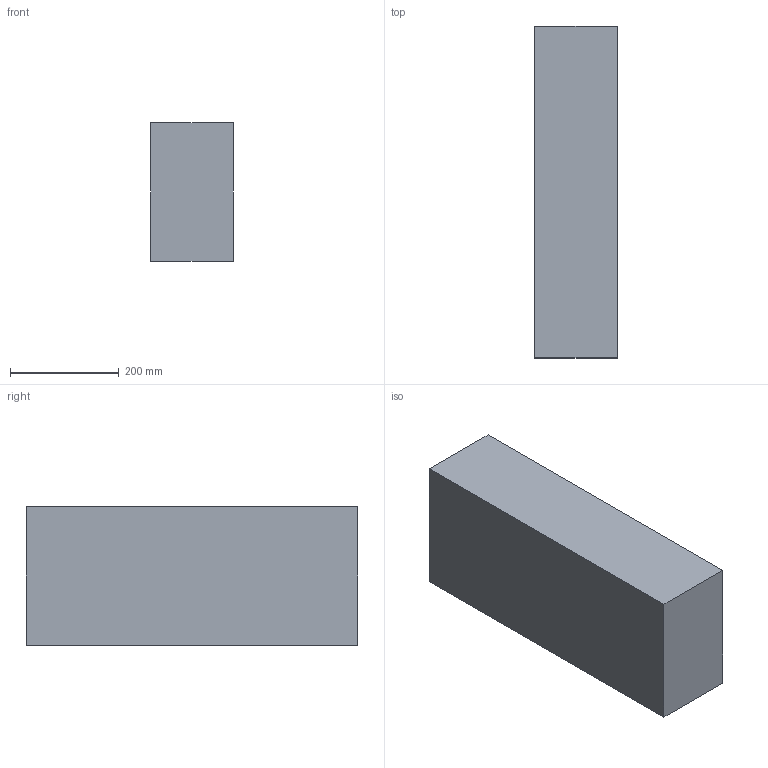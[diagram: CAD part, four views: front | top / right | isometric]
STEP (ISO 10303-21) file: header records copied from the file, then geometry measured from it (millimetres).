
FILE_DESCRIPTION(/* description */ (''),/* implementation_level */ '2;1');
FILE_NAME(/* name */ '6x10x24',/* time_stamp */ '2024-09-20T11:46:55-05:00',/* author */ (''),/* organization */ (''),/* preprocessor_version */ 'ST-DEVELOPER v19.2',/* originating_system */ 'Rhino 8.5',/* authorisation */ '');
FILE_SCHEMA (('CONFIG_CONTROL_DESIGN'));
Length unit declared in the file: inch
Products named in the file (1): Document
Bounding box: 152.4 x 609.6 x 254 mm (x, y, z)
Volume: 23597372.2 mm3; surface area: 572902.1 mm2
Topology: 1 solids, 1 shells, 6 faces, 12 edges, 8 vertices
Faces by surface type: plane 6
Entity records: 226 total; most frequent: CARTESIAN_POINT 40, ORIENTED_EDGE 24, EDGE_CURVE 12, B_SPLINE_CURVE_WITH_KNOTS 12, DIRECTION 10, VERTEX_POINT 8, AXIS2_PLACEMENT_3D 8, ORGANIZATION 7
